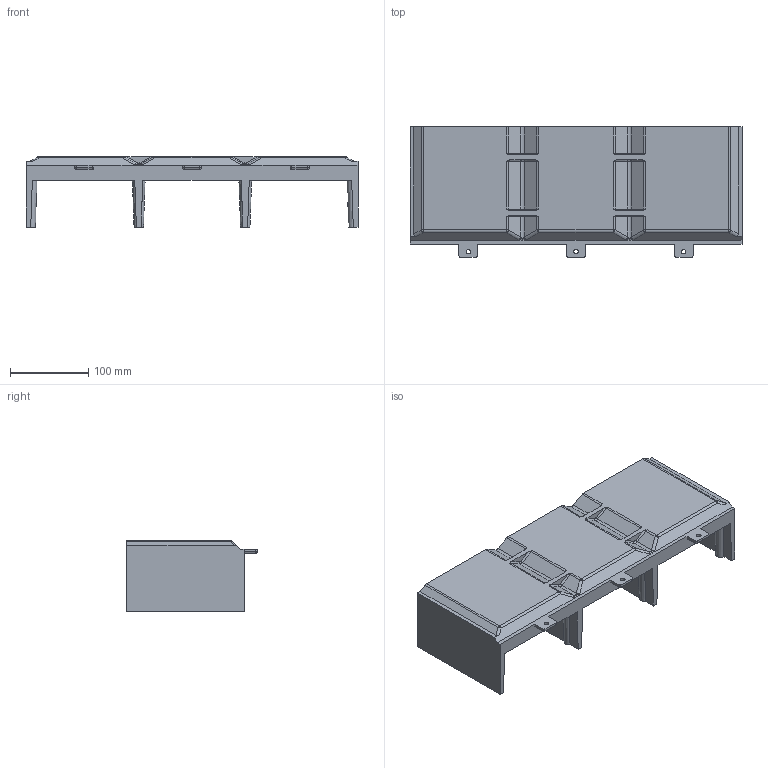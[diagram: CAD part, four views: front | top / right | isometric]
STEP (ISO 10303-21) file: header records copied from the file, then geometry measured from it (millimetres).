
FILE_DESCRIPTION (( 'STEP AP214' ), '1' );
FILE_NAME ('Êðûøêà êëåììíàÿ ÂÀ50-43.STEP', '2023-01-31T11:57:25', ( '' ), ( '' ), 'SwSTEP 2.0', 'SolidWorks 2018', '' );
FILE_SCHEMA (( 'AUTOMOTIVE_DESIGN' ));
Length unit declared in the file: millimetre
Products named in the file (1): Êðûøêà êëåììíàÿ ÂÀ50-43
Bounding box: 424 x 166.5 x 90 mm (x, y, z)
Volume: 931465.7 mm3; surface area: 250815.4 mm2
Topology: 1 solids, 1 shells, 219 faces, 581 edges, 354 vertices
Faces by surface type: plane 91, cylinder 66, torus 24, cone 18, sphere 12, bspline 8
Full cylindrical faces by diameter (mm): 5.7 x3
Entity records: 9297 total; most frequent: CARTESIAN_POINT 1682, ORIENTED_EDGE 1132, DIRECTION 1038, EDGE_CURVE 566, AXIS2_PLACEMENT_3D 366, VERTEX_POINT 354, LINE 306, VECTOR 306
